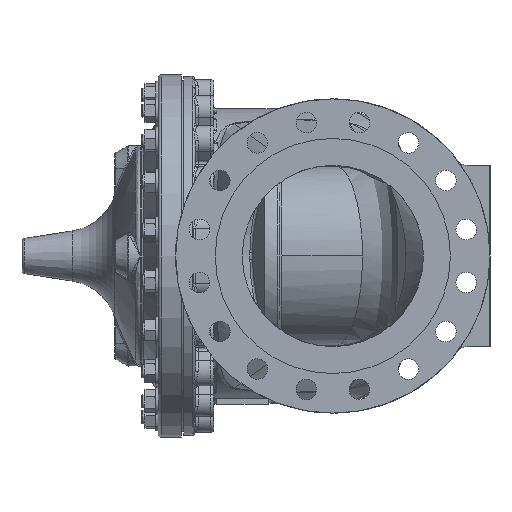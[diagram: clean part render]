
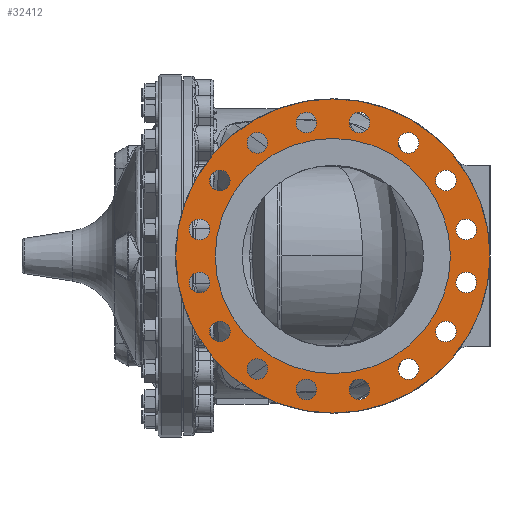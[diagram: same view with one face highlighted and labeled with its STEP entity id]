
A CAD part, left-side view. The second image highlights one B-rep face of the part: STEP entity #32412.
In plain terms, the highlighted planar face has unit normal (-1, 0, 0).
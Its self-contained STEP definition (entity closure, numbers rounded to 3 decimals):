
#1740=FACE_BOUND('',#5486,.T.);
#1741=FACE_BOUND('',#5487,.T.);
#1742=FACE_BOUND('',#5488,.T.);
#1743=FACE_BOUND('',#5489,.T.);
#1744=FACE_BOUND('',#5490,.T.);
#1745=FACE_BOUND('',#5491,.T.);
#1746=FACE_BOUND('',#5492,.T.);
#1747=FACE_BOUND('',#5493,.T.);
#1748=FACE_BOUND('',#5494,.T.);
#1749=FACE_BOUND('',#5495,.T.);
#1750=FACE_BOUND('',#5496,.T.);
#1751=FACE_BOUND('',#5497,.T.);
#1752=FACE_BOUND('',#5498,.T.);
#1753=FACE_BOUND('',#5499,.T.);
#1754=FACE_BOUND('',#5500,.T.);
#1755=FACE_BOUND('',#5501,.T.);
#1756=FACE_BOUND('',#5502,.T.);
#2089=PLANE('',#35014);
#3310=FACE_OUTER_BOUND('',#5485,.T.);
#5485=EDGE_LOOP('',(#25202));
#5486=EDGE_LOOP('',(#25203));
#5487=EDGE_LOOP('',(#25204));
#5488=EDGE_LOOP('',(#25205));
#5489=EDGE_LOOP('',(#25206));
#5490=EDGE_LOOP('',(#25207));
#5491=EDGE_LOOP('',(#25208));
#5492=EDGE_LOOP('',(#25209));
#5493=EDGE_LOOP('',(#25210));
#5494=EDGE_LOOP('',(#25211));
#5495=EDGE_LOOP('',(#25212));
#5496=EDGE_LOOP('',(#25213));
#5497=EDGE_LOOP('',(#25214));
#5498=EDGE_LOOP('',(#25215));
#5499=EDGE_LOOP('',(#25216));
#5500=EDGE_LOOP('',(#25217));
#5501=EDGE_LOOP('',(#25218));
#5502=EDGE_LOOP('',(#25219));
#7559=CIRCLE('',#34940,17.);
#7560=CIRCLE('',#34942,17.);
#7561=CIRCLE('',#34944,17.);
#7562=CIRCLE('',#34946,17.);
#7563=CIRCLE('',#34948,17.);
#7564=CIRCLE('',#34950,17.);
#7565=CIRCLE('',#34952,17.);
#7566=CIRCLE('',#34954,17.);
#7567=CIRCLE('',#34956,17.);
#7568=CIRCLE('',#34958,17.);
#7569=CIRCLE('',#34960,17.);
#7570=CIRCLE('',#34962,17.);
#7571=CIRCLE('',#34964,17.);
#7572=CIRCLE('',#34966,17.);
#7573=CIRCLE('',#34968,17.);
#7574=CIRCLE('',#34970,17.);
#7599=CIRCLE('',#35015,260.);
#7600=CIRCLE('',#35016,194.5);
#14011=VERTEX_POINT('',#101507);
#14012=VERTEX_POINT('',#101511);
#14013=VERTEX_POINT('',#101515);
#14014=VERTEX_POINT('',#101519);
#14015=VERTEX_POINT('',#101523);
#14016=VERTEX_POINT('',#101527);
#14017=VERTEX_POINT('',#101531);
#14018=VERTEX_POINT('',#101535);
#14019=VERTEX_POINT('',#101539);
#14020=VERTEX_POINT('',#101543);
#14021=VERTEX_POINT('',#101547);
#14022=VERTEX_POINT('',#101551);
#14023=VERTEX_POINT('',#101555);
#14024=VERTEX_POINT('',#101559);
#14025=VERTEX_POINT('',#101563);
#14026=VERTEX_POINT('',#101567);
#14052=VERTEX_POINT('',#101780);
#14053=VERTEX_POINT('',#101782);
#17973=EDGE_CURVE('',#14011,#14011,#7559,.T.);
#17975=EDGE_CURVE('',#14012,#14012,#7560,.T.);
#17977=EDGE_CURVE('',#14013,#14013,#7561,.T.);
#17979=EDGE_CURVE('',#14014,#14014,#7562,.T.);
#17981=EDGE_CURVE('',#14015,#14015,#7563,.T.);
#17983=EDGE_CURVE('',#14016,#14016,#7564,.T.);
#17985=EDGE_CURVE('',#14017,#14017,#7565,.T.);
#17987=EDGE_CURVE('',#14018,#14018,#7566,.T.);
#17989=EDGE_CURVE('',#14019,#14019,#7567,.T.);
#17991=EDGE_CURVE('',#14020,#14020,#7568,.T.);
#17993=EDGE_CURVE('',#14021,#14021,#7569,.T.);
#17995=EDGE_CURVE('',#14022,#14022,#7570,.T.);
#17997=EDGE_CURVE('',#14023,#14023,#7571,.T.);
#17999=EDGE_CURVE('',#14024,#14024,#7572,.T.);
#18001=EDGE_CURVE('',#14025,#14025,#7573,.T.);
#18003=EDGE_CURVE('',#14026,#14026,#7574,.T.);
#18050=EDGE_CURVE('',#14052,#14052,#7599,.T.);
#18051=EDGE_CURVE('',#14053,#14053,#7600,.T.);
#25202=ORIENTED_EDGE('',*,*,#18050,.F.);
#25203=ORIENTED_EDGE('',*,*,#17973,.T.);
#25204=ORIENTED_EDGE('',*,*,#17975,.T.);
#25205=ORIENTED_EDGE('',*,*,#17977,.T.);
#25206=ORIENTED_EDGE('',*,*,#17979,.T.);
#25207=ORIENTED_EDGE('',*,*,#17981,.T.);
#25208=ORIENTED_EDGE('',*,*,#17983,.T.);
#25209=ORIENTED_EDGE('',*,*,#17985,.T.);
#25210=ORIENTED_EDGE('',*,*,#17987,.T.);
#25211=ORIENTED_EDGE('',*,*,#17989,.T.);
#25212=ORIENTED_EDGE('',*,*,#17991,.T.);
#25213=ORIENTED_EDGE('',*,*,#17993,.T.);
#25214=ORIENTED_EDGE('',*,*,#17995,.T.);
#25215=ORIENTED_EDGE('',*,*,#17997,.T.);
#25216=ORIENTED_EDGE('',*,*,#17999,.T.);
#25217=ORIENTED_EDGE('',*,*,#18001,.T.);
#25218=ORIENTED_EDGE('',*,*,#18003,.T.);
#25219=ORIENTED_EDGE('',*,*,#18051,.F.);
#32412=ADVANCED_FACE('',(#3310,#1740,#1741,#1742,#1743,#1744,#1745,#1746,
#1747,#1748,#1749,#1750,#1751,#1752,#1753,#1754,#1755,#1756),#2089,.F.);
#34940=AXIS2_PLACEMENT_3D('',#101508,#40584,#40585);
#34942=AXIS2_PLACEMENT_3D('',#101512,#40589,#40590);
#34944=AXIS2_PLACEMENT_3D('',#101516,#40594,#40595);
#34946=AXIS2_PLACEMENT_3D('',#101520,#40599,#40600);
#34948=AXIS2_PLACEMENT_3D('',#101524,#40604,#40605);
#34950=AXIS2_PLACEMENT_3D('',#101528,#40609,#40610);
#34952=AXIS2_PLACEMENT_3D('',#101532,#40614,#40615);
#34954=AXIS2_PLACEMENT_3D('',#101536,#40619,#40620);
#34956=AXIS2_PLACEMENT_3D('',#101540,#40624,#40625);
#34958=AXIS2_PLACEMENT_3D('',#101544,#40629,#40630);
#34960=AXIS2_PLACEMENT_3D('',#101548,#40634,#40635);
#34962=AXIS2_PLACEMENT_3D('',#101552,#40639,#40640);
#34964=AXIS2_PLACEMENT_3D('',#101556,#40644,#40645);
#34966=AXIS2_PLACEMENT_3D('',#101560,#40649,#40650);
#34968=AXIS2_PLACEMENT_3D('',#101564,#40654,#40655);
#34970=AXIS2_PLACEMENT_3D('',#101568,#40659,#40660);
#35014=AXIS2_PLACEMENT_3D('',#101779,#40765,#40766);
#35015=AXIS2_PLACEMENT_3D('',#101781,#40767,#40768);
#35016=AXIS2_PLACEMENT_3D('',#101783,#40769,#40770);
#40584=DIRECTION('center_axis',(1.,0.,0.));
#40585=DIRECTION('ref_axis',(0.,-0.383,-0.924));
#40589=DIRECTION('center_axis',(1.,0.,0.));
#40590=DIRECTION('ref_axis',(0.,-0.707,-0.707));
#40594=DIRECTION('center_axis',(1.,0.,0.));
#40595=DIRECTION('ref_axis',(0.,-0.924,-0.383));
#40599=DIRECTION('center_axis',(1.,0.,0.));
#40600=DIRECTION('ref_axis',(0.,-1.,0.));
#40604=DIRECTION('center_axis',(1.,0.,0.));
#40605=DIRECTION('ref_axis',(0.,-0.924,0.383));
#40609=DIRECTION('center_axis',(1.,0.,0.));
#40610=DIRECTION('ref_axis',(0.,-0.707,0.707));
#40614=DIRECTION('center_axis',(1.,0.,0.));
#40615=DIRECTION('ref_axis',(0.,-0.383,0.924));
#40619=DIRECTION('center_axis',(1.,0.,0.));
#40620=DIRECTION('ref_axis',(0.,0.,
1.));
#40624=DIRECTION('center_axis',(1.,0.,0.));
#40625=DIRECTION('ref_axis',(0.,0.383,0.924));
#40629=DIRECTION('center_axis',(1.,0.,0.));
#40630=DIRECTION('ref_axis',(0.,0.707,0.707));
#40634=DIRECTION('center_axis',(1.,0.,0.));
#40635=DIRECTION('ref_axis',(0.,0.924,0.383));
#40639=DIRECTION('center_axis',(1.,0.,0.));
#40640=DIRECTION('ref_axis',(0.,1.,0.));
#40644=DIRECTION('center_axis',(1.,0.,0.));
#40645=DIRECTION('ref_axis',(0.,0.924,-0.383));
#40649=DIRECTION('center_axis',(1.,0.,0.));
#40650=DIRECTION('ref_axis',(0.,0.707,-0.707));
#40654=DIRECTION('center_axis',(1.,0.,0.));
#40655=DIRECTION('ref_axis',(0.,0.383,-0.924));
#40659=DIRECTION('center_axis',(1.,0.,0.));
#40660=DIRECTION('ref_axis',(0.,0.,
-1.));
#40765=DIRECTION('center_axis',(1.,0.,0.));
#40766=DIRECTION('ref_axis',(0.,0.,
-1.));
#40767=DIRECTION('center_axis',(1.,0.,0.));
#40768=DIRECTION('ref_axis',(0.,0.,
-1.));
#40769=DIRECTION('center_axis',(-1.,0.,0.));
#40770=DIRECTION('ref_axis',(0.,0.,
-1.));
#101507=CARTESIAN_POINT('',(-421.,-287.095,-28.189));
#101508=CARTESIAN_POINT('Origin',(-421.,-293.6,-43.895));
#101511=CARTESIAN_POINT('',(-421.,-315.176,-112.982));
#101512=CARTESIAN_POINT('Origin',(-421.,-327.196,-125.003));
#101515=CARTESIAN_POINT('',(-421.,-373.568,-180.575));
#101516=CARTESIAN_POINT('Origin',(-421.,-389.274,-187.081));
#101519=CARTESIAN_POINT('',(-421.,-453.382,-220.677));
#101520=CARTESIAN_POINT('Origin',(-421.,-470.382,-220.677));
#101523=CARTESIAN_POINT('',(-421.,-542.466,-227.182));
#101524=CARTESIAN_POINT('Origin',(-421.,-558.172,-220.677));
#101527=CARTESIAN_POINT('',(-421.,-627.259,-199.101));
#101528=CARTESIAN_POINT('Origin',(-421.,-639.28,-187.081));
#101531=CARTESIAN_POINT('',(-421.,-694.852,-140.709));
#101532=CARTESIAN_POINT('Origin',(-421.,-701.358,-125.003));
#101535=CARTESIAN_POINT('',(-421.,-734.954,-60.895));
#101536=CARTESIAN_POINT('Origin',(-421.,-734.954,-43.895));
#101539=CARTESIAN_POINT('',(-421.,-741.459,28.189));
#101540=CARTESIAN_POINT('Origin',(-421.,-734.954,43.895));
#101543=CARTESIAN_POINT('',(-421.,-713.378,112.982));
#101544=CARTESIAN_POINT('Origin',(-421.,-701.358,125.003));
#101547=CARTESIAN_POINT('',(-421.,-654.986,180.575));
#101548=CARTESIAN_POINT('Origin',(-421.,-639.28,187.081));
#101551=CARTESIAN_POINT('',(-421.,-575.172,220.677));
#101552=CARTESIAN_POINT('Origin',(-421.,-558.172,220.677));
#101555=CARTESIAN_POINT('',(-421.,-486.088,227.182));
#101556=CARTESIAN_POINT('Origin',(-421.,-470.382,220.677));
#101559=CARTESIAN_POINT('',(-421.,-401.295,199.101));
#101560=CARTESIAN_POINT('Origin',(-421.,-389.274,187.081));
#101563=CARTESIAN_POINT('',(-421.,-333.702,140.709));
#101564=CARTESIAN_POINT('Origin',(-421.,-327.196,125.003));
#101567=CARTESIAN_POINT('',(-421.,-293.6,60.895));
#101568=CARTESIAN_POINT('Origin',(-421.,-293.6,43.895));
#101779=CARTESIAN_POINT('Origin',(-421.,-514.277,0.));
#101780=CARTESIAN_POINT('',(-421.,-514.277,260.));
#101781=CARTESIAN_POINT('Origin',(-421.,-514.277,0.));
#101782=CARTESIAN_POINT('',(-421.,-514.277,194.5));
#101783=CARTESIAN_POINT('Origin',(-421.,-514.277,0.));
